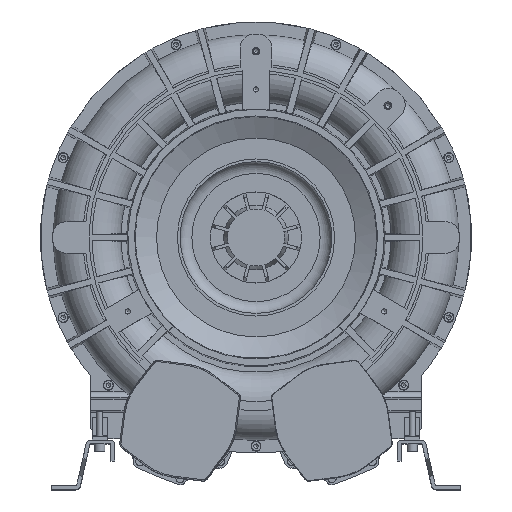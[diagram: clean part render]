
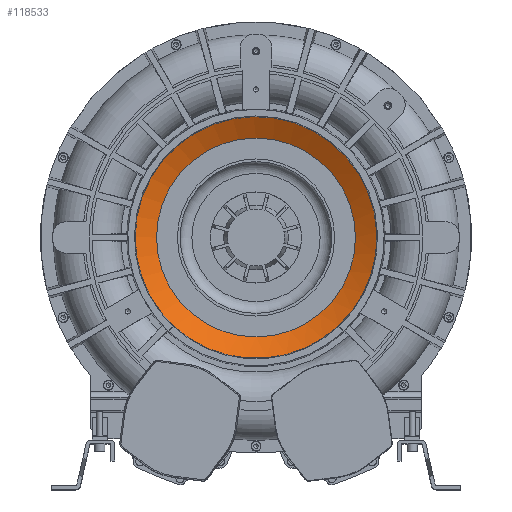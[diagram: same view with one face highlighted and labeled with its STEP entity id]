
A CAD part, top view. The second image highlights one B-rep face of the part: STEP entity #118533.
In plain terms, the highlighted conical face has half-angle 62 degrees and reference radius 131.023 mm.
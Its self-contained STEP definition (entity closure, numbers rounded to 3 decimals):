
#7956 = CARTESIAN_POINT ( 'NONE',  ( 0., 0., 215.5 ) ) ;
#13908 = CIRCLE ( 'NONE', #26903, 159.217 ) ;
#17237 = AXIS2_PLACEMENT_3D ( 'NONE', #7956, #20067, #163359 ) ;
#17710 = DIRECTION ( 'NONE',  ( 0., 0., 1. ) ) ;
#20067 = DIRECTION ( 'NONE',  ( 0., 0., 1. ) ) ;
#26903 = AXIS2_PLACEMENT_3D ( 'NONE', #248265, #104877, #61197 ) ;
#26940 = ORIENTED_EDGE ( 'NONE', *, *, #80237, .F. ) ;
#52317 = VERTEX_POINT ( 'NONE', #90582 ) ;
#61012 = VERTEX_POINT ( 'NONE', #203055 ) ;
#61197 = DIRECTION ( 'NONE',  ( -1., 0., 0. ) ) ;
#62621 = FACE_OUTER_BOUND ( 'NONE', #149320, .T. ) ;
#80237 = EDGE_CURVE ( 'NONE', #52317, #52317, #13908, .T. ) ;
#81784 = FACE_BOUND ( 'NONE', #204740, .T. ) ;
#90582 = CARTESIAN_POINT ( 'NONE',  ( -159.217, 0., 230.491 ) ) ;
#99403 = ORIENTED_EDGE ( 'NONE', *, *, #135110, .F. ) ;
#104877 = DIRECTION ( 'NONE',  ( 0., 0., -1. ) ) ;
#118533 = ADVANCED_FACE ( 'NONE', ( #62621, #81784 ), #254265, .F. ) ;
#120114 = DIRECTION ( 'NONE',  ( 1., 0., 0. ) ) ;
#134993 = CIRCLE ( 'NONE', #17237, 131.023 ) ;
#135110 = EDGE_CURVE ( 'NONE', #61012, #61012, #134993, .T. ) ;
#149320 = EDGE_LOOP ( 'NONE', ( #26940 ) ) ;
#163359 = DIRECTION ( 'NONE',  ( -1., 0., 0. ) ) ;
#203055 = CARTESIAN_POINT ( 'NONE',  ( -131.023, 0., 215.5 ) ) ;
#204740 = EDGE_LOOP ( 'NONE', ( #99403 ) ) ;
#227843 = CARTESIAN_POINT ( 'NONE',  ( 0., 0., 215.5 ) ) ;
#236987 = AXIS2_PLACEMENT_3D ( 'NONE', #227843, #17710, #120114 ) ;
#248265 = CARTESIAN_POINT ( 'NONE',  ( 0., 0., 230.491 ) ) ;
#254265 = CONICAL_SURFACE ( 'NONE', #236987, 131.023, 1.082 ) ;
